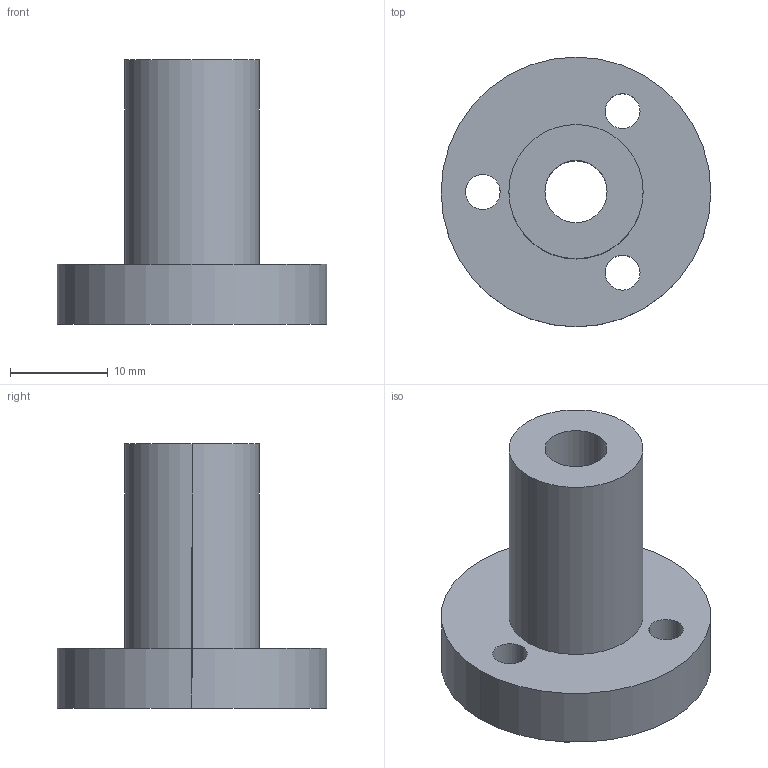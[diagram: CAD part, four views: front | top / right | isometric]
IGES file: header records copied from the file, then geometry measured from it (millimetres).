
Global section: file name: C:\Documents and Settings\Administrator\Desktop\Transfer Temp\ballnut0250.igs; native system: AutoDesk Inventor R2.0 ; preprocessor: AutoDesk Inventor Iges Exporter R2.0; author: No Author specified; organization: No Organization specified; date: 20011227.203051; units: inch
Bounding box: 27.56 x 27.56 x 27 mm (x, y, z)
Surface area: 3241.5 mm2 (no closed solid volume)
Topology: 0 solids, 0 shells, 15 faces, 72 edges, 72 vertices
Faces by surface type: bspline 11, revolution 4
